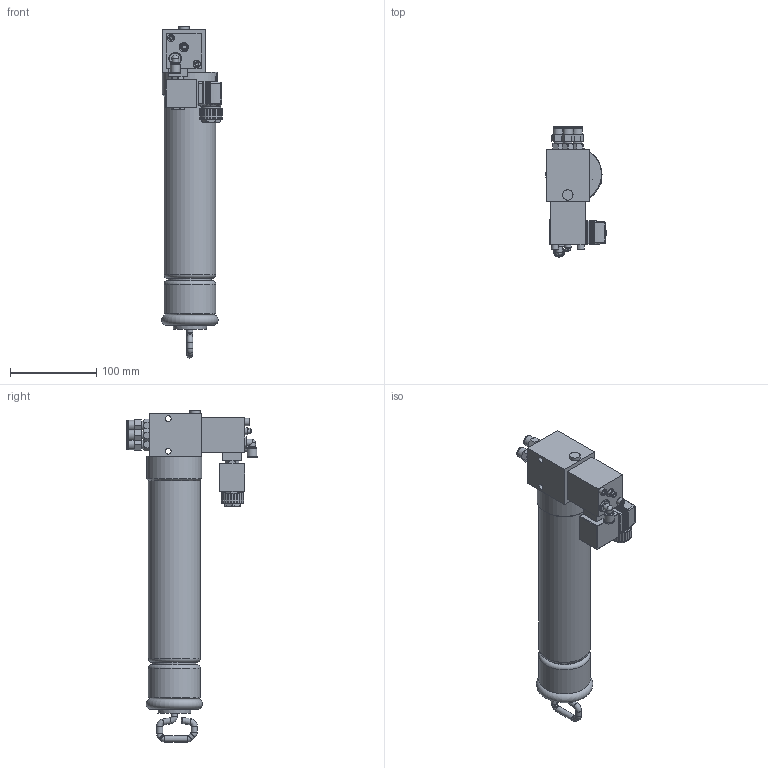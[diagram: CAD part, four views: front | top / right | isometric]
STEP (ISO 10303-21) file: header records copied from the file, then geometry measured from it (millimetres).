
FILE_DESCRIPTION (( 'STEP AP214' ), '1' );
FILE_NAME ('1470_0406_01sf_XXX.STEP', '2026-04-29T09:23:08', ( '' ), ( '' ), 'SwSTEP 2.0', 'SolidWorks 2022', '' );
FILE_SCHEMA (( 'AUTOMOTIVE_DESIGN' ));
Length unit declared in the file: millimetre
Products named in the file (15): DPF_Kartusche; DPF_Luftverschraubung; 1470_0406_01sf_XXX; ZYLSCHRAUBE_M5X10; DPF_Kartuschenhebel; TRO_Magnetventil_Stecker; 04E33_1801_MAGNETSPULE_FORM-A; DPF_Pumpenkoerper_2fach_4fach; DPF_10_1; DPF_Pumpenausgangsverschraubung; DPF_Sensor_Anschluss; DPF_Kartuschenbehaelter; DPF_Funktionskontrolle_Stecker; DPF_Pumpenkoerper_2_fach; Verschlussstopfen_1_8
Assembly tree (19 placements, depth 3):
  1470_0406_01sf_XXX
    DPF_Kartuschenbehaelter
      DPF_Kartuschenhebel
      DPF_Kartusche
      DPF_Sensor_Anschluss
      Verschlussstopfen_1_8
    DPF_Pumpenkoerper_2fach_4fach
      DPF_Pumpenkoerper_2_fach
      DPF_Pumpenausgangsverschraubung  x2
      DPF_Luftverschraubung
      04E33_1801_MAGNETSPULE_FORM-A
      TRO_Magnetventil_Stecker
      DPF_10_1  x2
      DPF_Funktionskontrolle_Stecker
      ZYLSCHRAUBE_M5X10  x2
    DPF_Pumpenausgangsverschraubung  x2
Bounding box: 70.43 x 151.1 x 385.59 mm (x, y, z)
Volume: 1152167 mm3; surface area: 127706 mm2
Topology: 20 solids, 20 shells, 1115 faces, 2863 edges, 1855 vertices
Faces by surface type: plane 605, cylinder 247, bspline 191, cone 55, torus 14, sphere 3
Full cylindrical faces by diameter (mm): 0.7 x3, 1 x3, 1.5 x3, 2.5 x1, 4 x1, 5 x6, 5.75 x1, 6 x5, 6.2 x1, 6.25 x1, 6.5 x2, 6.6 x2, 6.75 x1, 7 x10, 8 x3, 8.4 x2, 8.5 x2, 9 x4, 9.5 x1, 9.7 x1, 10 x10, 10.3 x1, 10.5 x2, 11 x2, 11.2 x1, 12 x9, 15 x1, 16 x1, 16.345 x1, 22 x1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
Entity records: 39773 total; most frequent: CARTESIAN_POINT 16068, ORIENTED_EDGE 4652, DIRECTION 3910, EDGE_CURVE 2326, VERTEX_POINT 1578, LINE 1436, VECTOR 1436, AXIS2_PLACEMENT_3D 1237
